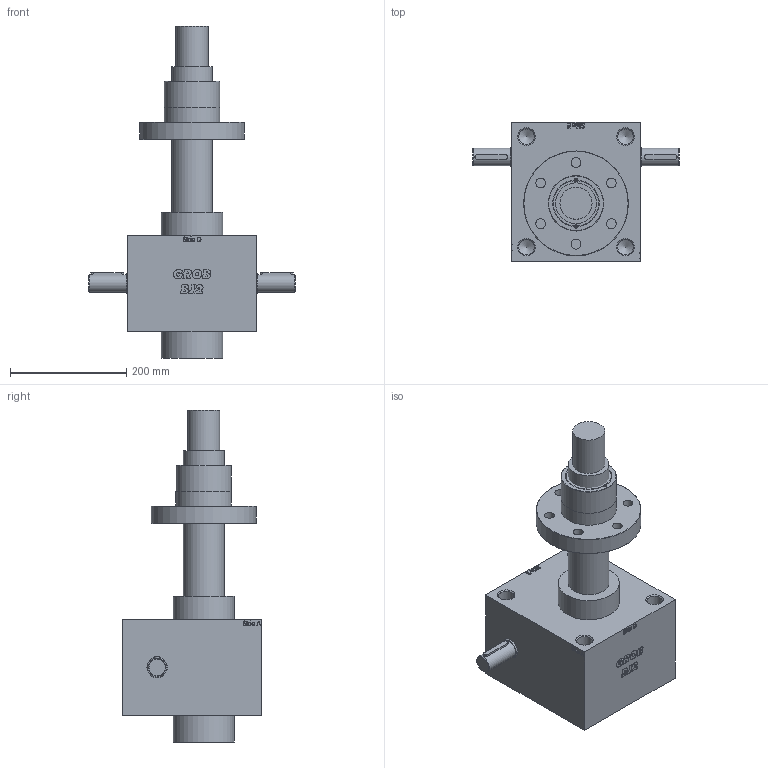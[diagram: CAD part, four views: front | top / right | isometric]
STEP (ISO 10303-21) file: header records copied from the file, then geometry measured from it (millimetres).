
FILE_DESCRIPTION(/* description */ ('BJ2-LMN-1F-0100-Z-EFM'),/* implementation_level */ '2;1');
FILE_NAME(/* name */ 'BJ2-LMN-1F-0100-Z-EFM_extracted.stp',/* time_stamp */ '2023-12-18T14:13:09+01:00',/* author */ ('M. Horlacher'),/* organization */ ('GROB'),/* preprocessor_version */ 'ST-DEVELOPER v20',/* originating_system */ 'Autodesk Inventor 2024',/* authorisation */ '');
FILE_SCHEMA (('AUTOMOTIVE_DESIGN { 1 0 10303 214 3 1 1 }'));
Length unit declared in the file: millimetre
Products named in the file (8): BJ2 STEP-Laufmutterausführung; BJ2-Komponentenreferenz; M10x1 DIN 3405 A; BJ2 STEP LM-Grundmodel; 290506-1305s; 290506-1208s; ISO 4027 - M6 x 20 Stahl - 45H; 100320-1005ws
Assembly tree (10 placements, depth 3):
  BJ2 STEP-Laufmutterausführung
    BJ2-Komponentenreferenz
    M10x1 DIN 3405 A
    BJ2 STEP LM-Grundmodel
    290506-1305s
      290506-1208s
      ISO 4027 - M6 x 20 Stahl - 45H  x4
      100320-1005ws
Bounding box: 355 x 240 x 570 mm (x, y, z)
Volume: 11427168.9 mm3; surface area: 559176.5 mm2
Topology: 8 solids, 8 shells, 896 faces, 2355 edges, 1560 vertices
Faces by surface type: plane 424, bspline 382, cylinder 46, cone 44
Full cylindrical faces by diameter (mm): 0.5 x1, 1 x1, 6 x4, 10 x1, 17 x7, 26.211 x8, 30 x2, 55 x1, 60 x1, 70 x1, 77.835 x1, 80 x1, 94.8 x1, 95 x1, 105 x2, 180 x1
Entity records: 30057 total; most frequent: CARTESIAN_POINT 10939, ORIENTED_EDGE 4498, DIRECTION 2599, EDGE_CURVE 2249, VERTEX_POINT 1503, LINE 1347, VECTOR 1347, EDGE_LOOP 980
